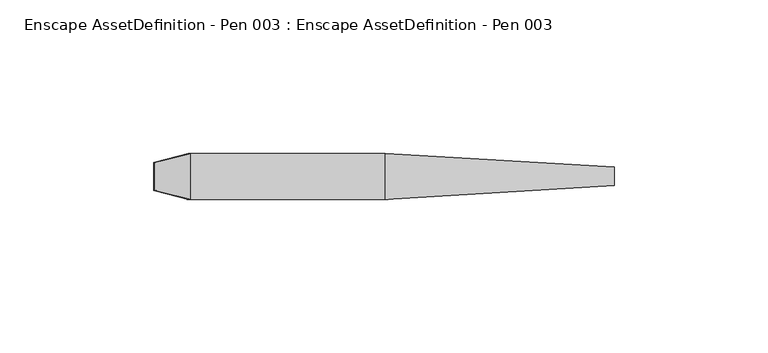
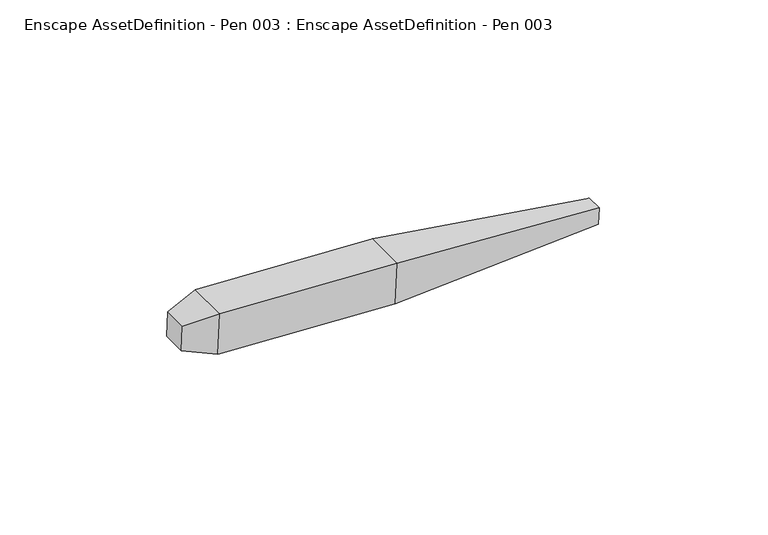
"""IFC4 building model written with IfcOpenShell, lengths in millimetres: geographic element geometry, Enscape AssetDefinition - Pen 003 : Enscape AssetDefinition - Pen 003."""

from ifc_helpers import new_model, si_unit, origin, place, context, project, spatial, triangles, source, transform, mapped, element, save


def enscape_assetdefinition_pen_003_enscape_assetdefinition_pen_f7e62ea4(model_context):
    return source(origin(), model_context, "Body", "Tessellation", [
        triangles([(-74.6690024, 4.5279999, 15.6289992), (-75.0989998, -4.5279999, 6.583), (-74.6690024, -4.5279999, 15.6289992), (-63.0159982, -7.5469997, 18.0980005), (-75.0989998, 4.5279999, 6.583), (-63.7319974, -7.5469997, 3.0199998), (0.358, 7.5469997, 15.086), (-0.358, -7.5469997, 0.009), (-63.0159982, 7.5469997, 18.0980005), (-63.7319974, 7.5469997, 3.0199998), (0.358, -7.5469997, 15.086), (75.0269975, -3.0190001, 7.0039999), (-0.358, 7.5469997, 0.009), (74.740001, 3.0190001, 0.973), (74.740001, -3.0190001, 0.973), (75.0269975, 3.0190001, 7.0039999)], [[14, 16, 12], [14, 12, 15], [13, 14, 15], [13, 16, 14], [13, 7, 16], [15, 12, 11], [16, 11, 12], [16, 7, 11], [15, 11, 8], [13, 15, 8], [10, 7, 13], [10, 13, 8], [10, 9, 7], [8, 11, 4], [7, 4, 11], [7, 9, 4], [8, 4, 6], [10, 8, 6], [5, 10, 6], [5, 9, 10], [5, 1, 9], [9, 3, 4], [9, 1, 3], [6, 4, 3], [5, 6, 2], [6, 3, 2], [2, 1, 5], [2, 3, 1]]),
    ])


if __name__ == "__main__":
    model = new_model("IFC4")
    model_context = context("Model", 3, world=origin())
    ifc_project = project(units=[si_unit("LENGTHUNIT", "METRE", prefix="MILLI")], contexts=[model_context])
    site = spatial("IfcSite", under=ifc_project)
    building = spatial("IfcBuilding", under=site)
    placement = place(None, origin())
    enscape_assetdefinition_pen_003_enscape_assetdefinition_pen_shape = enscape_assetdefinition_pen_003_enscape_assetdefinition_pen_f7e62ea4(model_context)
    element("IfcGeographicElement", 1, ObjectType="Enscape AssetDefinition - Pen 003 : Enscape AssetDefinition - Pen 003", at=placement, inside=building, context=model_context, shape_type="MappedRepresentation", body=[
        mapped(enscape_assetdefinition_pen_003_enscape_assetdefinition_pen_shape, transform((0.0, 0.0, 0.0), x_axis=(1.0, 0.0, 0.0), y_axis=(0.0, 1.0, 0.0), z_axis=(0.0, 0.0, 1.0))),
    ])
    save(model, "model.ifc")
